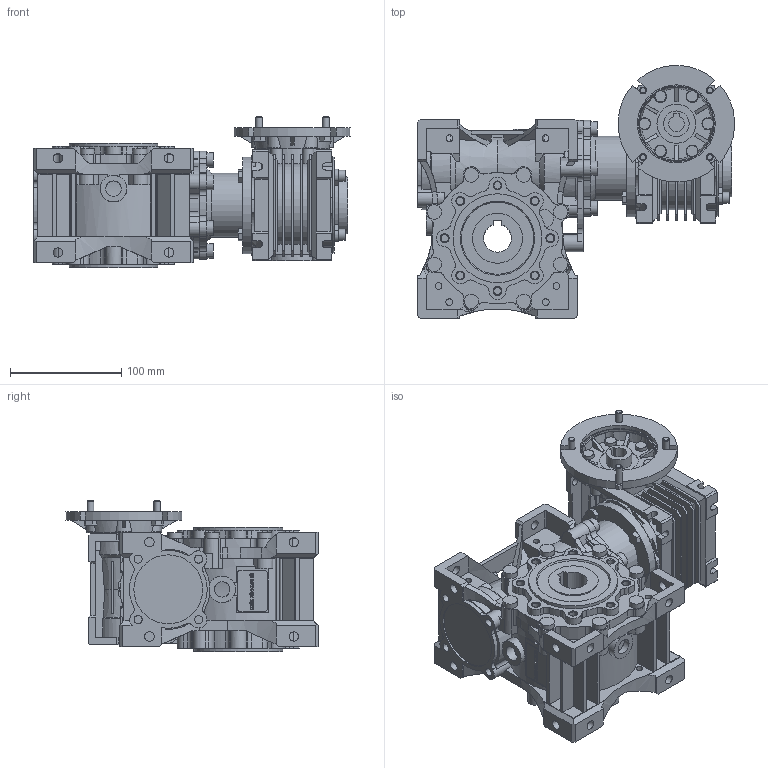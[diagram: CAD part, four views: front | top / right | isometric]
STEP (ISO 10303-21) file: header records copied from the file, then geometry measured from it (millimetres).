
FILE_DESCRIPTION(/* description */ ('STEP AP214'),/* implementation_level */ '2;1');
FILE_NAME(/* name */ 'NMRVP-NMRVP 040-063 100 (10x10) AS2 105x14 18 NO 25 NO NO - - NO - - - NO NO - --(--------)',/* time_stamp */ '2024-10-23T11:02:57+02:00',/* author */ ('License CC BY-ND 4.0'),/* organization */ ('CADENAS'),/* preprocessor_version */ 'ST-DEVELOPER v19.3',/* originating_system */ 'PARTsolutions',/* authorisation */ ' ');
FILE_SCHEMA (('AUTOMOTIVE_DESIGN {1 0 10303 214 3 1 1}'));
Products named in the file (11): NMRVP-NMRVP 040-063 100 (10x10) AS2 105x14 18 NO 25 NO NO - - NO - - 
- NO NO - --(--------); W.063.01.M; 063-25 (112); W.063.14.19.M-p; 040-063-TRA; W.040.01.M; 040-18 (78); VB 040-14 (14)-p; 4071 B14; Corona 40-p; 63-45
Assembly tree (10 placements, depth 2):
  NMRVP-NMRVP 040-063 100 (10x10) AS2 105x14 18 NO 25 NO NO - - NO - - 
- NO NO - --(--------)
    W.063.01.M
    063-25 (112)
    W.063.14.19.M-p
    040-063-TRA
    W.040.01.M
    040-18 (78)
    VB 040-14 (14)-p
    4071 B14
    Corona 40-p
    63-45
Bounding box: 285.33 x 227.33 x 136 mm (x, y, z)
Volume: 2669319.5 mm3; surface area: 482988.4 mm2
Topology: 10 solids, 14 shells, 2279 faces, 6203 edges, 4073 vertices
Faces by surface type: plane 1427, cylinder 728, cone 120, torus 4
Full cylindrical faces by diameter (mm): 4.917 x8, 5.55 x3, 6 x16, 6.647 x16, 7 x6, 7.26 x12, 7.8 x1, 8.5 x14, 10 x10, 10.8 x4, 11 x6, 13 x14, 14 x3, 16 x1, 23 x2, 24 x1, 25 x1, 27 x1, 28 x1, 30 x2, 35 x2, 36 x1, 37 x1, 40 x1, 44 x1, 45 x3, 47 x1, 58 x1, 60 x3, 62 x3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
Entity records: 87136 total; most frequent: CARTESIAN_POINT 13660, DIRECTION 12048, ORIENTED_EDGE 11918, EDGE_CURVE 5959, AXIS2_PLACEMENT_3D 4196, VERTEX_POINT 4026, LINE 3656, VECTOR 3656
